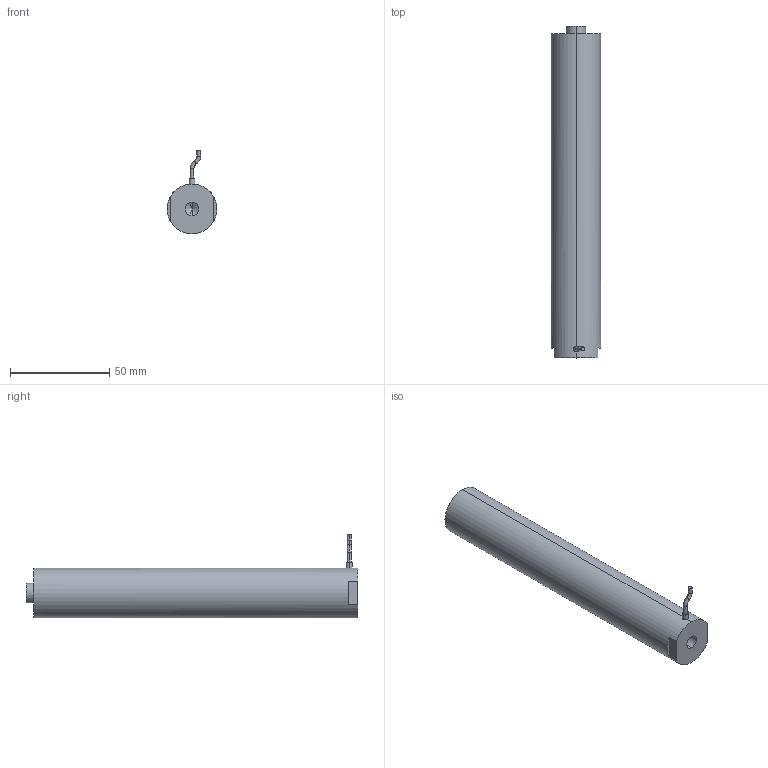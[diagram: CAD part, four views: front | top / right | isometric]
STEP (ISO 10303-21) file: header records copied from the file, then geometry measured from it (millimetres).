
FILE_DESCRIPTION (( 'STEP AP203' ), '1' );
FILE_NAME ('ﾆｽﾍｷﾊｽ160VS25.STEP', '2021-07-08T07:33:32', ( 'ﾎ｢ﾈ橆ﾃｻｧ' ), ( 'ﾎ｢ﾈ晥ｫﾋｾ' ), 'SwSTEP 2.0', 'SolidWorks 2016', '' );
FILE_SCHEMA (( 'CONFIG_CONTROL_DESIGN' ));
Length unit declared in the file: millimetre
Products named in the file (1): ƽͷʽ160VS25
Bounding box: 25 x 167 x 42.06 mm (x, y, z)
Volume: 79860.5 mm3; surface area: 14269.3 mm2
Topology: 1 solids, 1 shells, 948 faces, 2576 edges, 1713 vertices
Faces by surface type: bspline 521, plane 311, cylinder 110, torus 4, cone 2
Entity records: 45348 total; most frequent: CARTESIAN_POINT 26076, ORIENTED_EDGE 5148, EDGE_CURVE 2574, DIRECTION 1960, B_SPLINE_CURVE_WITH_KNOTS 1742, VERTEX_POINT 1713, EDGE_LOOP 1033, ADVANCED_FACE 948
